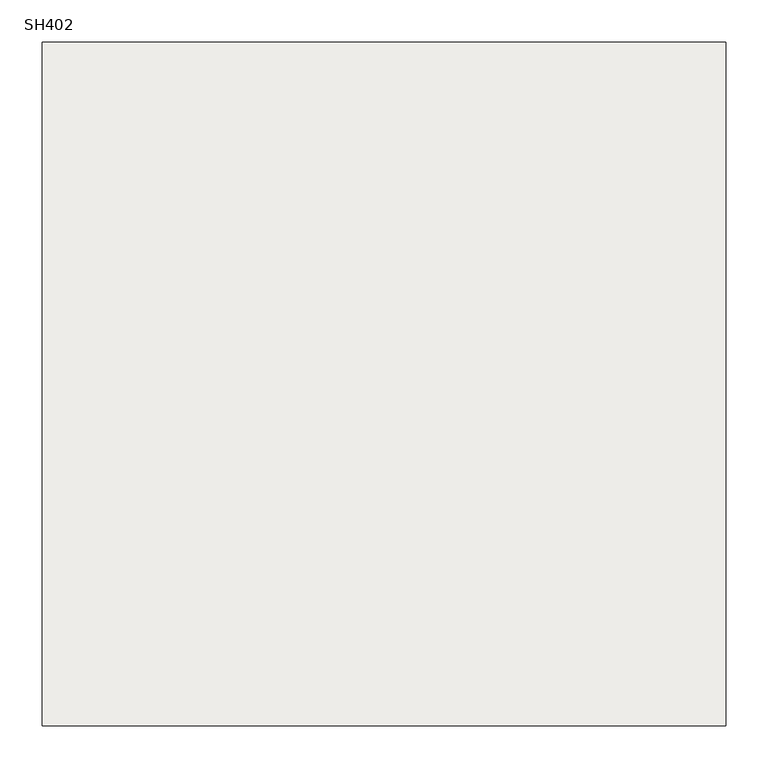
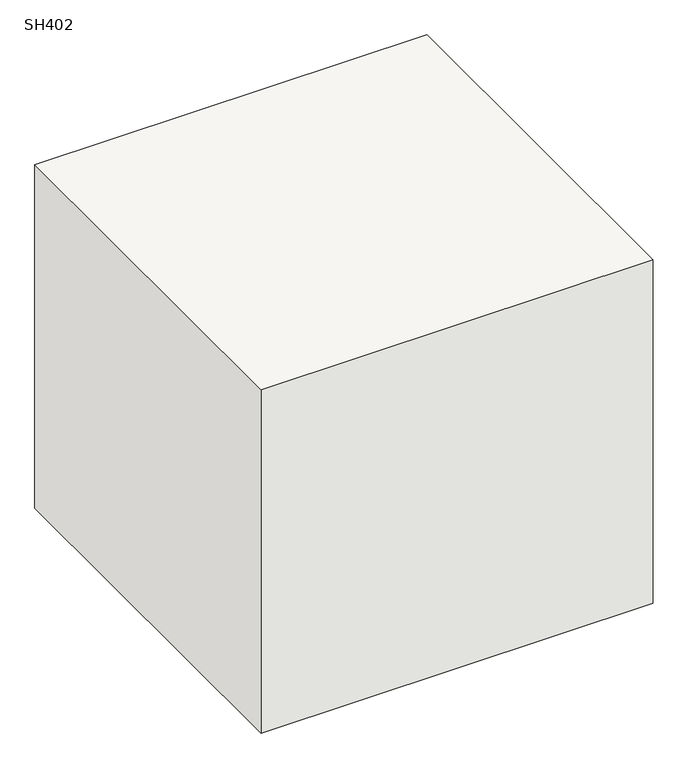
"""IFC4 building model written with IfcOpenShell, lengths in millimetres: slab geometry, 柱形_SH : SH402."""

from ifc_helpers import new_model, si_unit, frame, origin, place, context, project, spatial, polyline, outline, extrude, source, transform, mapped, element, save


def sh402_118434c7(model_context):
    return source(origin(), model_context, "Body", "SweptSolid", [
        extrude(outline(polyline([(405.0, 405.0), (405.0, -405.0), (-405.0, -405.0), (-405.0, 405.0), (405.0, 405.0)])), frame((0.0, 0.0, -750.0), z_axis=(0.0, 0.0, 1.0), x_axis=(1.0, 0.0, 0.0)), (0.0, 0.0, 1.0), 750.0),
    ])


if __name__ == "__main__":
    model = new_model("IFC4")
    model_context = context("Model", 3, world=origin())
    ifc_project = project(units=[si_unit("LENGTHUNIT", "METRE", prefix="MILLI")], contexts=[model_context])
    site = spatial("IfcSite", under=ifc_project)
    building = spatial("IfcBuilding", under=site)
    placement = place(None, origin())
    sh402_shape = sh402_118434c7(model_context)
    element("IfcSlab", 1, ObjectType="柱形_SH : SH402", at=placement, inside=building, context=model_context, shape_type="MappedRepresentation", body=[
        mapped(sh402_shape, transform((0.0, 0.0, 0.0), x_axis=(1.0, 0.0, 0.0), y_axis=(0.0, 1.0, 0.0), z_axis=(0.0, 0.0, 1.0))),
    ])
    save(model, "model.ifc")
